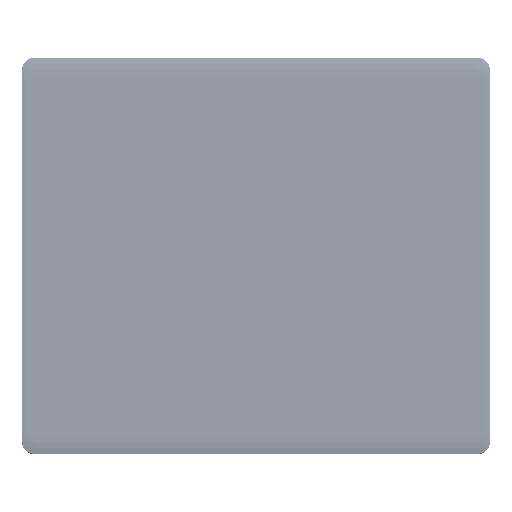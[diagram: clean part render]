
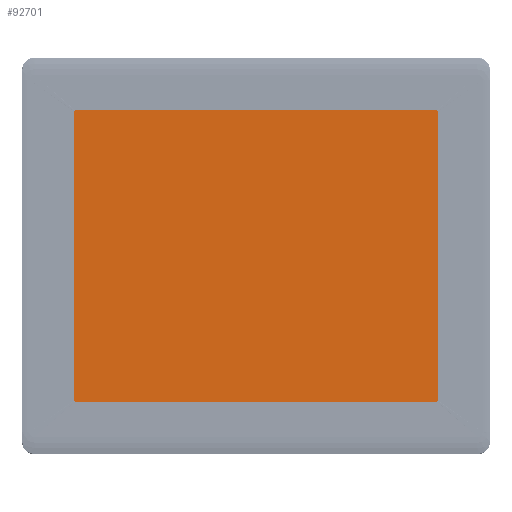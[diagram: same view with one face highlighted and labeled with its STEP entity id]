
A CAD part, top view. The second image highlights one B-rep face of the part: STEP entity #92701.
In plain terms, the highlighted planar face has unit normal (0, 0, 1).
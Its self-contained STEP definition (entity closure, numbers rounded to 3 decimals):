
#92358=DIRECTION('',(-1.,0.,0.));
#92359=VECTOR('',#92358,374.51);
#92360=CARTESIAN_POINT('',(187.25,150.898,3.463));
#92361=LINE('',#92360,#92359);
#92362=DIRECTION('',(0.,1.,0.));
#92363=VECTOR('',#92362,299.26);
#92364=CARTESIAN_POINT('',(188.52,-149.633,3.463));
#92365=LINE('',#92364,#92363);
#92366=DIRECTION('',(1.,0.,0.));
#92367=VECTOR('',#92366,374.51);
#92368=CARTESIAN_POINT('',(-187.26,-150.903,3.463));
#92369=LINE('',#92368,#92367);
#92370=DIRECTION('',(0.,-1.,0.));
#92371=VECTOR('',#92370,299.26);
#92372=CARTESIAN_POINT('',(-188.53,149.628,3.463));
#92373=LINE('',#92372,#92371);
#92410=CARTESIAN_POINT('',(-187.26,-150.903,3.463));
#92411=CARTESIAN_POINT('',(-187.434,-150.9,3.463));
#92412=CARTESIAN_POINT('',(-187.754,-150.837,3.504));
#92413=CARTESIAN_POINT('',(-188.182,-150.555,3.483));
#92414=CARTESIAN_POINT('',(-188.465,-150.127,3.504));
#92415=CARTESIAN_POINT('',(-188.528,-149.807,3.463));
#92416=CARTESIAN_POINT('',(-188.53,-149.633,3.463));
#92418=CARTESIAN_POINT('',(188.52,-149.633,3.463));
#92419=CARTESIAN_POINT('',(188.518,-149.807,3.463));
#92420=CARTESIAN_POINT('',(188.455,-150.127,3.504));
#92421=CARTESIAN_POINT('',(188.172,-150.555,3.483));
#92422=CARTESIAN_POINT('',(187.744,-150.837,3.504));
#92423=CARTESIAN_POINT('',(187.424,-150.9,3.463));
#92424=CARTESIAN_POINT('',(187.25,-150.903,3.463));
#92426=CARTESIAN_POINT('',(187.25,150.898,3.463));
#92427=CARTESIAN_POINT('',(187.424,150.895,3.463));
#92428=CARTESIAN_POINT('',(187.744,150.832,3.504));
#92429=CARTESIAN_POINT('',(188.172,150.55,3.483));
#92430=CARTESIAN_POINT('',(188.455,150.122,3.504));
#92431=CARTESIAN_POINT('',(188.518,149.802,3.463));
#92432=CARTESIAN_POINT('',(188.52,149.628,3.463));
#92434=CARTESIAN_POINT('',(-188.53,149.628,3.463));
#92435=CARTESIAN_POINT('',(-188.528,149.802,3.463));
#92436=CARTESIAN_POINT('',(-188.465,150.122,3.504));
#92437=CARTESIAN_POINT('',(-188.182,150.55,3.483));
#92438=CARTESIAN_POINT('',(-187.754,150.832,3.504));
#92439=CARTESIAN_POINT('',(-187.434,150.895,3.463));
#92440=CARTESIAN_POINT('',(-187.26,150.898,3.463));
#92670=VERTEX_POINT('',#92434);
#92671=VERTEX_POINT('',#92440);
#92672=VERTEX_POINT('',#92426);
#92673=VERTEX_POINT('',#92432);
#92674=VERTEX_POINT('',#92418);
#92675=VERTEX_POINT('',#92424);
#92676=VERTEX_POINT('',#92410);
#92677=VERTEX_POINT('',#92416);
#92678=CARTESIAN_POINT('',(-0.005,-0.002,3.435));
#92679=DIRECTION('',(0.,0.,1.));
#92680=DIRECTION('',(1.,0.,0.));
#92681=AXIS2_PLACEMENT_3D('',#92678,#92679,#92680);
#92682=PLANE('',#92681);
#92684=ORIENTED_EDGE('',*,*,#92683,.T.);
#92686=ORIENTED_EDGE('',*,*,#92685,.F.);
#92688=ORIENTED_EDGE('',*,*,#92687,.T.);
#92690=ORIENTED_EDGE('',*,*,#92689,.F.);
#92692=ORIENTED_EDGE('',*,*,#92691,.T.);
#92694=ORIENTED_EDGE('',*,*,#92693,.F.);
#92696=ORIENTED_EDGE('',*,*,#92695,.T.);
#92698=ORIENTED_EDGE('',*,*,#92697,.F.);
#92699=EDGE_LOOP('',(#92684,#92686,#92688,#92690,#92692,#92694,#92696,#92698));
#92700=FACE_OUTER_BOUND('',#92699,.F.);
#92701=ADVANCED_FACE('',(#92700),#92682,.T.);
#92417=B_SPLINE_CURVE_WITH_KNOTS('',3,(#92410,#92411,#92412,#92413,#92414,
#92415,#92416),.UNSPECIFIED.,.F.,.F.,(4,1,1,1,4),(0.,0.25,0.5,0.75,
1.),.UNSPECIFIED.);
#92425=B_SPLINE_CURVE_WITH_KNOTS('',3,(#92418,#92419,#92420,#92421,#92422,
#92423,#92424),.UNSPECIFIED.,.F.,.F.,(4,1,1,1,4),(0.,0.25,0.5,0.75,
1.),.UNSPECIFIED.);
#92433=B_SPLINE_CURVE_WITH_KNOTS('',3,(#92426,#92427,#92428,#92429,#92430,
#92431,#92432),.UNSPECIFIED.,.F.,.F.,(4,1,1,1,4),(0.,0.25,0.5,0.75,
1.),.UNSPECIFIED.);
#92441=B_SPLINE_CURVE_WITH_KNOTS('',3,(#92434,#92435,#92436,#92437,#92438,
#92439,#92440),.UNSPECIFIED.,.F.,.F.,(4,1,1,1,4),(0.,0.25,0.5,0.75,
1.),.UNSPECIFIED.);
#92683=EDGE_CURVE('',#92670,#92671,#92441,.T.);
#92685=EDGE_CURVE('',#92672,#92671,#92361,.T.);
#92687=EDGE_CURVE('',#92672,#92673,#92433,.T.);
#92689=EDGE_CURVE('',#92674,#92673,#92365,.T.);
#92691=EDGE_CURVE('',#92674,#92675,#92425,.T.);
#92693=EDGE_CURVE('',#92676,#92675,#92369,.T.);
#92695=EDGE_CURVE('',#92676,#92677,#92417,.T.);
#92697=EDGE_CURVE('',#92670,#92677,#92373,.T.);
